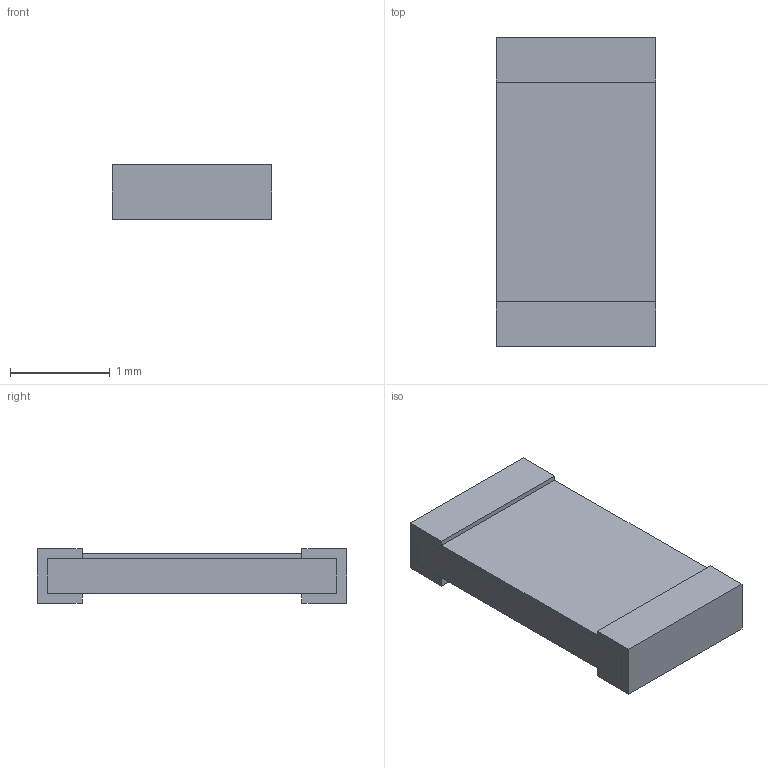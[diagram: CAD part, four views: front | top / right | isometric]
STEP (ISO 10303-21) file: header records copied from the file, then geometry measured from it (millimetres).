
FILE_DESCRIPTION(('FreeCAD Model'),'2;1');
FILE_NAME('Open CASCADE Shape Model','2025-01-27T18:42:50',( 'Krisjanis Rijnieks'),(''),'Open CASCADE STEP processor 7.7', 'FreeCAD','Unknown');
FILE_SCHEMA(('AUTOMOTIVE_DESIGN { 1 0 10303 214 1 1 1 1 }'));
Length unit declared in the file: millimetre
Products named in the file (5): 1206; Ceramic; Contacts; Contacts (Mirror #1); Overcoat
Assembly tree (4 placements, depth 2):
  1206
    Ceramic
    Contacts
    Contacts (Mirror #1)
    Overcoat
Bounding box: 1.6 x 3.1 x 0.55 mm (x, y, z)
Volume: 2.2 mm3; surface area: 29 mm2
Topology: 4 solids, 4 shells, 32 faces, 72 edges, 48 vertices
Faces by surface type: plane 32
Entity records: 996 total; most frequent: CARTESIAN_POINT 157, DIRECTION 146, ORIENTED_EDGE 144, EDGE_CURVE 72, LINE 72, VECTOR 72, VERTEX_POINT 48, AXIS2_PLACEMENT_3D 37
